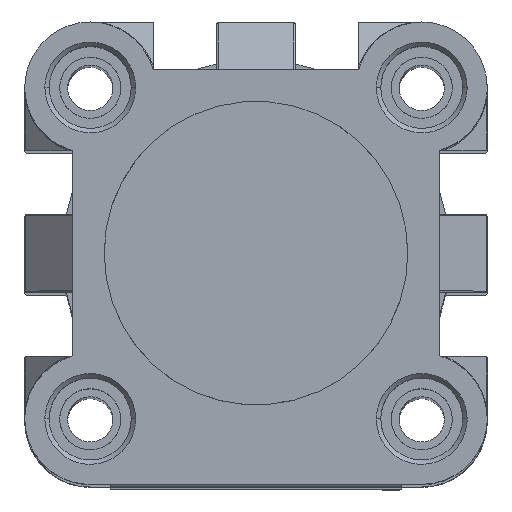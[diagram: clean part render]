
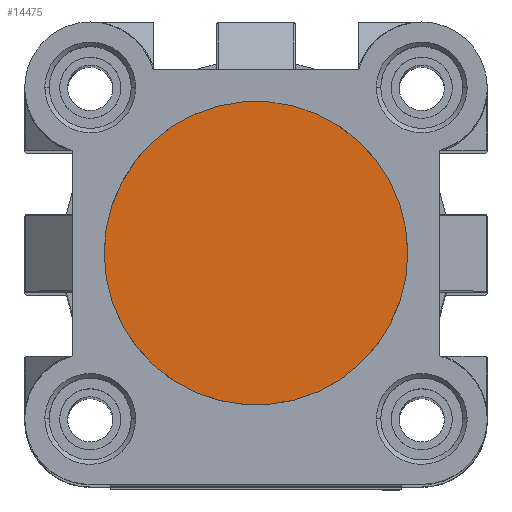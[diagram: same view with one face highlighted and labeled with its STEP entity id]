
A CAD part, top view. The second image highlights one B-rep face of the part: STEP entity #14475.
In plain terms, the highlighted planar face has unit normal (0, 0, 1) as drawn and (0, 0, -1) by its records, which use the part's own axes.
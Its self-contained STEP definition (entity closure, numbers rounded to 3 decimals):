
#816 = CARTESIAN_POINT ( 'NONE',  ( 37.843, 16.488, -4.1 ) ) ;
#869 = CARTESIAN_POINT ( 'NONE',  ( 3.6, 21., -4.1 ) ) ;
#902 = CARTESIAN_POINT ( 'NONE',  ( 22.139, 3.6, -4.1 ) ) ;
#957 = CARTESIAN_POINT ( 'NONE',  ( 13.289, 36.64, -4.1 ) ) ;
#989 = CARTESIAN_POINT ( 'NONE',  ( 4.707, 14.867, -4.1 ) ) ;
#1047 = CARTESIAN_POINT ( 'NONE',  ( 34.109, 32.498, -4.1 ) ) ;
#2846 = CARTESIAN_POINT ( 'NONE',  ( 36.64, 13.289, -4.1 ) ) ;
#2899 = CARTESIAN_POINT ( 'NONE',  ( 3.739, 23.271, -4.1 ) ) ;
#2929 = CARTESIAN_POINT ( 'NONE',  ( 18.723, 3.712, -4.1 ) ) ;
#2994 = CARTESIAN_POINT ( 'NONE',  ( 16.488, 37.843, -4.1 ) ) ;
#3014 = FACE_OUTER_BOUND ( 'NONE', #10608, .T. ) ;
#3024 = CARTESIAN_POINT ( 'NONE',  ( 4.184, 16.494, -4.1 ) ) ;
#3076 = CARTESIAN_POINT ( 'NONE',  ( 36.1, 29.72, -4.1 ) ) ;
#4575 = CARTESIAN_POINT ( 'NONE',  ( 38.4, 21., -4.1 ) ) ;
#4891 = CARTESIAN_POINT ( 'NONE',  ( 34.835, 10.386, -4.1 ) ) ;
#4947 = CARTESIAN_POINT ( 'NONE',  ( 4.157, 25.512, -4.1 ) ) ;
#4980 = CARTESIAN_POINT ( 'NONE',  ( 15.394, 4.489, -4.1 ) ) ;
#5034 = CARTESIAN_POINT ( 'NONE',  ( 19.861, 38.4, -4.1 ) ) ;
#5063 = CARTESIAN_POINT ( 'NONE',  ( 3.712, 18.725, -4.1 ) ) ;
#5121 = CARTESIAN_POINT ( 'NONE',  ( 37.293, 27.133, -4.1 ) ) ;
#5275 = B_SPLINE_CURVE_WITH_KNOTS ( 'NONE', 3,
 ( #869, #13033, #15085, #2899, #17106, #4947, #19164, #6986, #21237, #9032, #23287, #11092, #25328, #13120, #957, #15173, #2994, #17190, #5034, #19258, #7073, #21326, #9121, #23379, #11180, #25414, #13212, #1047, #15262, #3076, #17281, #5121, #19345, #7161, #21416, #9202, #23471, #11268 ),
 .UNSPECIFIED., .F., .F.,
 ( 4, 2, 2, 2, 2, 2, 2, 2, 2, 2, 2, 2, 2, 2, 2, 2, 2, 2, 4 ),
 ( 0., 0.031, 0.062, 0.125, 0.187, 0.25, 0.312, 0.375, 0.437, 0.5, 0.562, 0.625, 0.688, 0.75, 0.813, 0.875, 0.906, 0.938, 1. ),
 .UNSPECIFIED. ) ;
#5892 = ORIENTED_EDGE ( 'NONE', *, *, #25472, .T. ) ;
#6844 = CARTESIAN_POINT ( 'NONE',  ( 38.4, 20.429, -4.1 ) ) ;
#6931 = CARTESIAN_POINT ( 'NONE',  ( 32.498, 7.891, -4.1 ) ) ;
#6986 = CARTESIAN_POINT ( 'NONE',  ( 5.36, 28.711, -4.1 ) ) ;
#7015 = CARTESIAN_POINT ( 'NONE',  ( 12.28, 5.9, -4.1 ) ) ;
#7073 = CARTESIAN_POINT ( 'NONE',  ( 23.277, 38.288, -4.1 ) ) ;
#7102 = CARTESIAN_POINT ( 'NONE',  ( 3.6, 21., -4.1 ) ) ;
#7161 = CARTESIAN_POINT ( 'NONE',  ( 37.816, 25.506, -4.1 ) ) ;
#7496 = VERTEX_POINT ( 'NONE', #10526 ) ;
#8967 = CARTESIAN_POINT ( 'NONE',  ( 29.72, 5.9, -4.1 ) ) ;
#9032 = CARTESIAN_POINT ( 'NONE',  ( 7.165, 31.614, -4.1 ) ) ;
#9068 = CARTESIAN_POINT ( 'NONE',  ( 9.502, 7.891, -4.1 ) ) ;
#9121 = CARTESIAN_POINT ( 'NONE',  ( 26.606, 37.511, -4.1 ) ) ;
#9202 = CARTESIAN_POINT ( 'NONE',  ( 38.288, 23.275, -4.1 ) ) ;
#10526 = CARTESIAN_POINT ( 'NONE',  ( 3.6, 21., -4.1 ) ) ;
#10608 = EDGE_LOOP ( 'NONE', ( #5892, #21722 ) ) ;
#10947 = CARTESIAN_POINT ( 'NONE',  ( 38.372, 19.86, -4.1 ) ) ;
#11037 = CARTESIAN_POINT ( 'NONE',  ( 26.606, 4.489, -4.1 ) ) ;
#11092 = CARTESIAN_POINT ( 'NONE',  ( 9.502, 34.109, -4.1 ) ) ;
#11123 = CARTESIAN_POINT ( 'NONE',  ( 7.165, 10.386, -4.1 ) ) ;
#11180 = CARTESIAN_POINT ( 'NONE',  ( 29.72, 36.1, -4.1 ) ) ;
#11268 = CARTESIAN_POINT ( 'NONE',  ( 38.4, 21., -4.1 ) ) ;
#12977 = CARTESIAN_POINT ( 'NONE',  ( 38.177, 18.164, -4.1 ) ) ;
#13033 = CARTESIAN_POINT ( 'NONE',  ( 3.6, 21.571, -4.1 ) ) ;
#13066 = CARTESIAN_POINT ( 'NONE',  ( 23.277, 3.712, -4.1 ) ) ;
#13120 = CARTESIAN_POINT ( 'NONE',  ( 12.28, 36.1, -4.1 ) ) ;
#13154 = CARTESIAN_POINT ( 'NONE',  ( 5.36, 13.289, -4.1 ) ) ;
#13212 = CARTESIAN_POINT ( 'NONE',  ( 32.498, 34.109, -4.1 ) ) ;
#13246 = B_SPLINE_CURVE_WITH_KNOTS ( 'NONE', 3,
 ( #21084, #6844, #10947, #25186, #12977, #816, #15030, #2846, #17054, #4891, #19101, #6931, #21179, #8967, #23226, #11037, #25266, #13066, #902, #15117, #2929, #17135, #4980, #19197, #7015, #21267, #9068, #23318, #11123, #25360, #13154, #989, #15206, #3024, #17219, #5063, #19290, #7102 ),
 .UNSPECIFIED., .F., .F.,
 ( 4, 2, 2, 2, 2, 2, 2, 2, 2, 2, 2, 2, 2, 2, 2, 2, 2, 2, 4 ),
 ( 0., 0.031, 0.062, 0.125, 0.187, 0.25, 0.312, 0.375, 0.437, 0.5, 0.562, 0.625, 0.687, 0.75, 0.813, 0.875, 0.906, 0.938, 1. ),
 .UNSPECIFIED. ) ;
#13527 = DIRECTION ( 'NONE',  ( 1., 0., 0. ) ) ;
#14475 = ADVANCED_FACE ( 'NONE', ( #3014 ), #21645, .F. ) ;
#15030 = CARTESIAN_POINT ( 'NONE',  ( 37.511, 15.394, -4.1 ) ) ;
#15085 = CARTESIAN_POINT ( 'NONE',  ( 3.628, 22.14, -4.1 ) ) ;
#15117 = CARTESIAN_POINT ( 'NONE',  ( 19.861, 3.6, -4.1 ) ) ;
#15173 = CARTESIAN_POINT ( 'NONE',  ( 15.394, 37.511, -4.1 ) ) ;
#15206 = CARTESIAN_POINT ( 'NONE',  ( 4.515, 15.404, -4.1 ) ) ;
#15262 = CARTESIAN_POINT ( 'NONE',  ( 34.835, 31.614, -4.1 ) ) ;
#17054 = CARTESIAN_POINT ( 'NONE',  ( 36.1, 12.28, -4.1 ) ) ;
#17106 = CARTESIAN_POINT ( 'NONE',  ( 3.823, 23.836, -4.1 ) ) ;
#17135 = CARTESIAN_POINT ( 'NONE',  ( 16.488, 4.157, -4.1 ) ) ;
#17190 = CARTESIAN_POINT ( 'NONE',  ( 18.723, 38.288, -4.1 ) ) ;
#17219 = CARTESIAN_POINT ( 'NONE',  ( 4.046, 17.045, -4.1 ) ) ;
#17281 = CARTESIAN_POINT ( 'NONE',  ( 36.64, 28.711, -4.1 ) ) ;
#19101 = CARTESIAN_POINT ( 'NONE',  ( 34.109, 9.502, -4.1 ) ) ;
#19164 = CARTESIAN_POINT ( 'NONE',  ( 4.489, 26.606, -4.1 ) ) ;
#19197 = CARTESIAN_POINT ( 'NONE',  ( 13.289, 5.36, -4.1 ) ) ;
#19258 = CARTESIAN_POINT ( 'NONE',  ( 22.139, 38.4, -4.1 ) ) ;
#19290 = CARTESIAN_POINT ( 'NONE',  ( 3.6, 19.857, -4.1 ) ) ;
#19345 = CARTESIAN_POINT ( 'NONE',  ( 37.485, 26.596, -4.1 ) ) ;
#19793 = AXIS2_PLACEMENT_3D ( 'NONE', #23701, #25729, #13527 ) ;
#21084 = CARTESIAN_POINT ( 'NONE',  ( 38.4, 21., -4.1 ) ) ;
#21179 = CARTESIAN_POINT ( 'NONE',  ( 31.614, 7.165, -4.1 ) ) ;
#21237 = CARTESIAN_POINT ( 'NONE',  ( 5.9, 29.72, -4.1 ) ) ;
#21267 = CARTESIAN_POINT ( 'NONE',  ( 10.386, 7.165, -4.1 ) ) ;
#21326 = CARTESIAN_POINT ( 'NONE',  ( 25.512, 37.843, -4.1 ) ) ;
#21416 = CARTESIAN_POINT ( 'NONE',  ( 37.954, 24.955, -4.1 ) ) ;
#21645 = PLANE ( 'NONE',  #19793 ) ;
#21722 = ORIENTED_EDGE ( 'NONE', *, *, #23019, .T. ) ;
#22900 = VERTEX_POINT ( 'NONE', #4575 ) ;
#23019 = EDGE_CURVE ( 'NONE', #7496, #22900, #5275, .T. ) ;
#23226 = CARTESIAN_POINT ( 'NONE',  ( 28.711, 5.36, -4.1 ) ) ;
#23287 = CARTESIAN_POINT ( 'NONE',  ( 7.891, 32.498, -4.1 ) ) ;
#23318 = CARTESIAN_POINT ( 'NONE',  ( 7.891, 9.502, -4.1 ) ) ;
#23379 = CARTESIAN_POINT ( 'NONE',  ( 28.711, 36.64, -4.1 ) ) ;
#23471 = CARTESIAN_POINT ( 'NONE',  ( 38.4, 22.143, -4.1 ) ) ;
#23701 = CARTESIAN_POINT ( 'NONE',  ( 3.391, 3.391, -4.1 ) ) ;
#25186 = CARTESIAN_POINT ( 'NONE',  ( 38.261, 18.729, -4.1 ) ) ;
#25266 = CARTESIAN_POINT ( 'NONE',  ( 25.512, 4.157, -4.1 ) ) ;
#25328 = CARTESIAN_POINT ( 'NONE',  ( 10.386, 34.835, -4.1 ) ) ;
#25360 = CARTESIAN_POINT ( 'NONE',  ( 5.9, 12.28, -4.1 ) ) ;
#25414 = CARTESIAN_POINT ( 'NONE',  ( 31.614, 34.835, -4.1 ) ) ;
#25472 = EDGE_CURVE ( 'NONE', #22900, #7496, #13246, .T. ) ;
#25729 = DIRECTION ( 'NONE',  ( 0., 0., 1. ) ) ;
